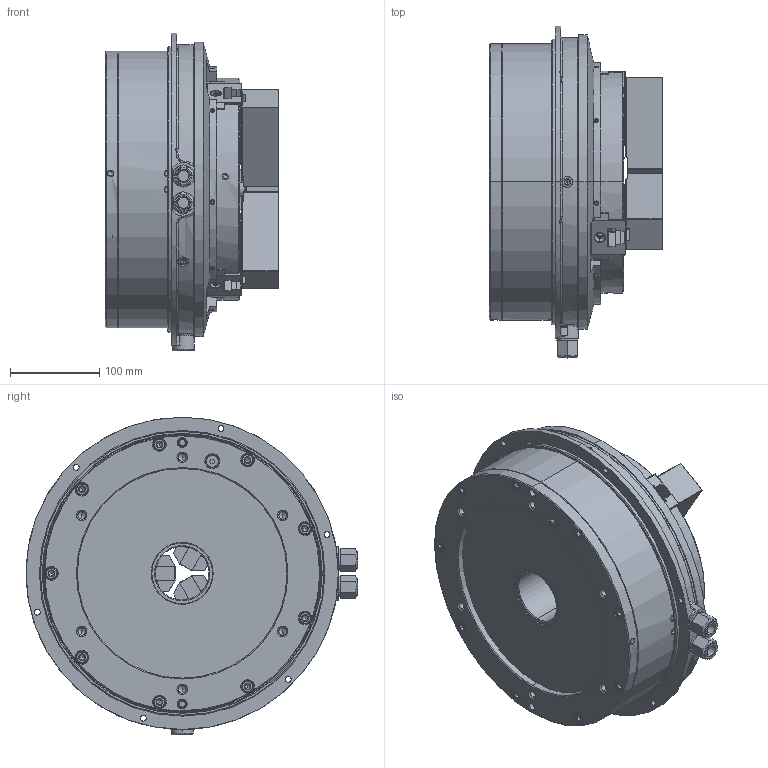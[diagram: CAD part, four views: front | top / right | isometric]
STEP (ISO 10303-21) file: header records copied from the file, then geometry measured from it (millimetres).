
FILE_DESCRIPTION (( 'STEP AP214' ), '1' );
FILE_NAME ('DEV-UVE250K-HCL.STEP', '2024-10-03T00:27:56', ( '' ), ( '' ), 'SwSTEP 2.0', 'SolidWorks 2022', '' );
FILE_SCHEMA (( 'AUTOMOTIVE_DESIGN' ));
Length unit declared in the file: millimetre
Products named in the file (6): Copy of 61P401335^DEV-UVE250K-クミタテ; Part2^DEV-UVE250K-クミタテ; Copy of 0693000003^DEV-UVE250K-クミタテ; Copy of P31633^DEV-UVE250K-クミタテ; Copy of 0030112030^DEV-UVE250K-クミタテ; DEV-UVE250K-HCL
Assembly tree (18 placements, depth 2):
  DEV-UVE250K-HCL
    Copy of P31633^DEV-UVE250K-クミタテ  x3
    Copy of 61P401335^DEV-UVE250K-クミタテ  x6
    Copy of 0030112030^DEV-UVE250K-クミタテ  x6
    Copy of 0693000003^DEV-UVE250K-クミタテ  x2
    Part2^DEV-UVE250K-クミタテ
Bounding box: 194.45 x 372 x 356 mm (x, y, z)
Volume: 10558512.8 mm3; surface area: 604750.2 mm2
Topology: 19 solids, 52 shells, 5451 faces, 15107 edges, 9841 vertices
Faces by surface type: plane 3373, cylinder 1150, cone 597, bspline 241, torus 68, sphere 22
Entity records: 151645 total; most frequent: CARTESIAN_POINT 45977, ORIENTED_EDGE 23876, DIRECTION 19277, EDGE_CURVE 11938, VECTOR 7877, LINE 7877, VERTEX_POINT 7825, AXIS2_PLACEMENT_3D 5700
